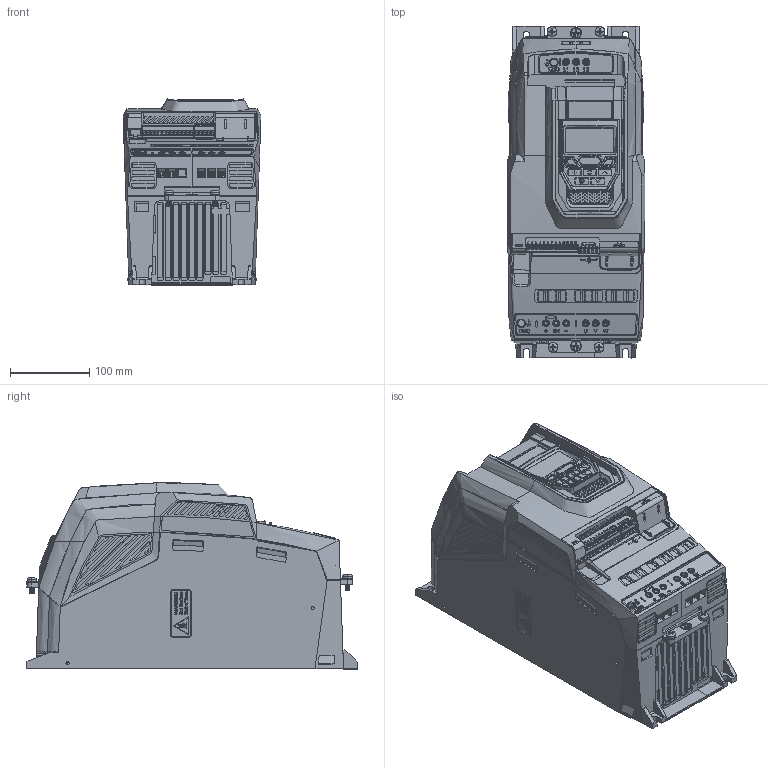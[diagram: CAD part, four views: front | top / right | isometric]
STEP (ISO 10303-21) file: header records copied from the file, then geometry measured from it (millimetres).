
FILE_DESCRIPTION (( 'STEP AP203' ), '1' );
FILE_NAME ('P2.IP20.S4.TFT.STEP', '2022-01-25T11:08:09', ( '' ), ( '' ), 'SwSTEP 2.0', 'SolidWorks 2021', '' );
FILE_SCHEMA (( 'CONFIG_CONTROL_DESIGN' ));
Products named in the file (1): P2.IP20.S4.TFT
Bounding box: 173.88 x 418.69 x 235.01 mm (x, y, z)
Surface area: 1040175.1 mm2 (no closed solid volume)
Topology: 0 solids, 1 shells, 8414 faces, 22814 edges, 14884 vertices
Faces by surface type: plane 4286, bspline 2508, cylinder 1120, cone 418, torus 72, sphere 10
Entity records: 368589 total; most frequent: CARTESIAN_POINT 187937, ORIENTED_EDGE 45530, DIRECTION 24622, EDGE_CURVE 22765, VERTEX_POINT 14884, LINE 9970, VECTOR 9970, B_SPLINE_CURVE_WITH_KNOTS 9878
